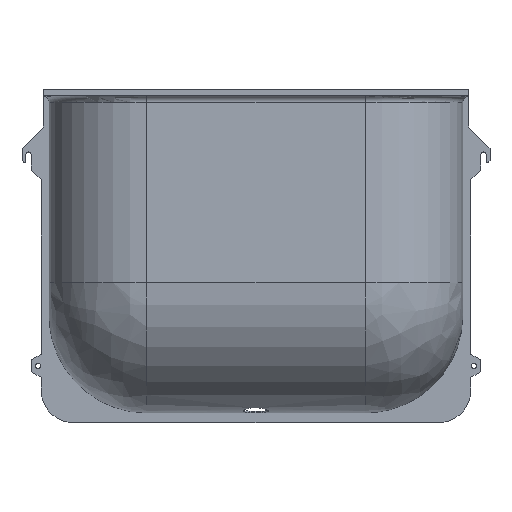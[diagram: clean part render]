
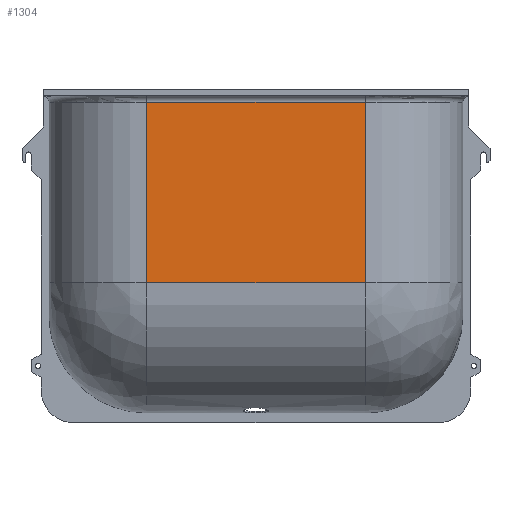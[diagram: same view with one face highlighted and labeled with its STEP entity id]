
A CAD part, top view. The second image highlights one B-rep face of the part: STEP entity #1304.
In plain terms, the highlighted planar face has unit normal (0, 0, 1).
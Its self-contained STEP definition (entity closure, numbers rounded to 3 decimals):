
#36=PLANE('',#1417);
#171=LINE('',#2193,#301);
#182=LINE('',#2234,#312);
#186=LINE('',#2293,#316);
#190=LINE('',#2344,#320);
#301=VECTOR('',#1626,673.);
#312=VECTOR('',#1661,555.);
#316=VECTOR('',#1679,673.);
#320=VECTOR('',#1687,555.);
#420=FACE_OUTER_BOUND('',#496,.T.);
#496=EDGE_LOOP('',(#1053,#1054,#1055,#1056));
#615=VERTEX_POINT('',#2177);
#619=VERTEX_POINT('',#2191);
#631=VERTEX_POINT('',#2233);
#635=VERTEX_POINT('',#2286);
#763=EDGE_CURVE('',#619,#615,#171,.T.);
#781=EDGE_CURVE('',#615,#631,#182,.T.);
#791=EDGE_CURVE('',#635,#631,#186,.T.);
#796=EDGE_CURVE('',#635,#619,#190,.T.);
#1053=ORIENTED_EDGE('',*,*,#763,.F.);
#1054=ORIENTED_EDGE('',*,*,#796,.F.);
#1055=ORIENTED_EDGE('',*,*,#791,.T.);
#1056=ORIENTED_EDGE('',*,*,#781,.F.);
#1304=ADVANCED_FACE('',(#420),#36,.T.);
#1417=AXIS2_PLACEMENT_3D('',#2345,#1688,#1689);
#1626=DIRECTION('',(1.,0.,0.));
#1661=DIRECTION('',(0.,-1.,0.));
#1679=DIRECTION('',(1.,0.,0.));
#1687=DIRECTION('',(0.,1.,0.));
#1688=DIRECTION('center_axis',(0.,0.,1.));
#1689=DIRECTION('ref_axis',(0.,-1.,0.));
#2177=CARTESIAN_POINT('',(336.5,-40.,400.));
#2191=CARTESIAN_POINT('',(-336.5,-40.,400.));
#2193=CARTESIAN_POINT('',(0.,-40.,400.));
#2233=CARTESIAN_POINT('',(336.5,-595.,400.));
#2234=CARTESIAN_POINT('',(336.5,-217.86,400.));
#2286=CARTESIAN_POINT('',(-336.5,-595.,400.));
#2293=CARTESIAN_POINT('',(0.,-595.,400.));
#2344=CARTESIAN_POINT('',(-336.5,-217.86,400.));
#2345=CARTESIAN_POINT('Origin',(0.,0.,400.));
